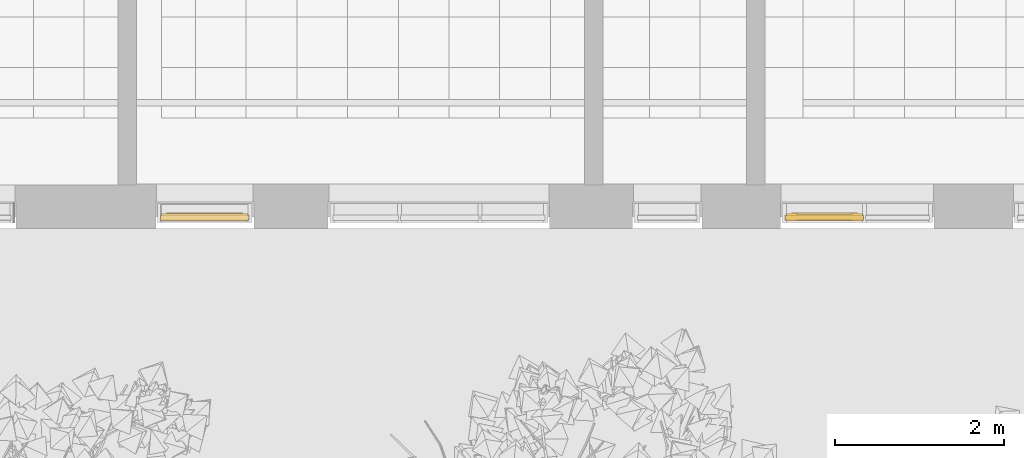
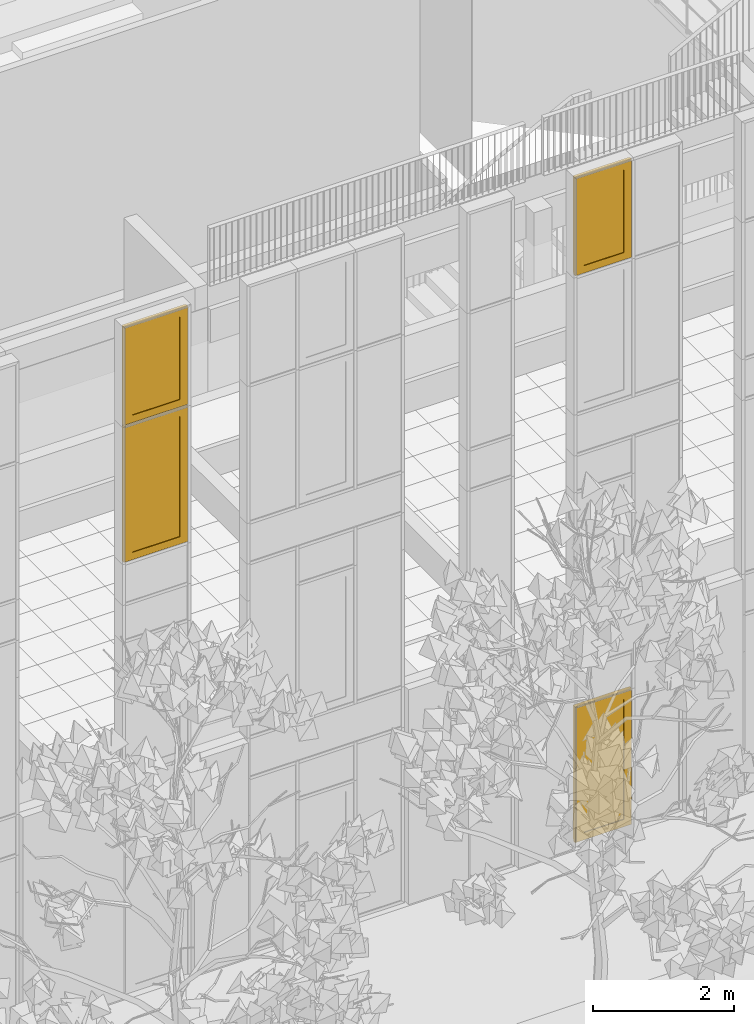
# One storey, part 155 of 246: 4 windows, 2 elements without a shape of their own.
"""IFC2X3 building model written with IfcOpenShell, lengths in millimetres."""

from ifc_helpers import new_model, entity, si_unit, converted_unit, derived_unit, money_unit, direction, frame, origin_with_axes, place, context, subcontext, project, spatial, open_shell, faceted_brep, surface_model, material, material_list, type_object, element, aggregate, save


model = new_model("IFC2X3")

# Units and contexts
model_context = context("Model", 3, precision=0.01, world=origin_with_axes(), true_north=direction((0.0, 1.0)))
body_context = subcontext(model_context, "Body", "Model", "MODEL_VIEW")
ifc_project = project(units=[si_unit("LENGTHUNIT", "METRE", prefix="MILLI"), si_unit("AREAUNIT", "SQUARE_METRE"), si_unit("VOLUMEUNIT", "CUBIC_METRE"), converted_unit("PLANEANGLEUNIT", "DEGREE", entity("IfcPlaneAngleMeasure", 0.0174532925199), si_unit("PLANEANGLEUNIT", "RADIAN"), dimensions=[0, 0, 0, 0, 0, 0, 0]), si_unit("SOLIDANGLEUNIT", "STERADIAN"), money_unit("EUR"), converted_unit("TIMEUNIT", "Year", entity("IfcTimeMeasure", 31556926.0), si_unit("TIMEUNIT", "SECOND"), dimensions=[0, 0, 1, 0, 0, 0, 0]), si_unit("MASSUNIT", "GRAM", prefix="KILO"), si_unit("THERMODYNAMICTEMPERATUREUNIT", "DEGREE_CELSIUS"), si_unit("LUMINOUSINTENSITYUNIT", "LUMEN"), si_unit("ENERGYUNIT", "JOULE", prefix="MEGA"), derived_unit("THERMALCONDUCTANCEUNIT", [(si_unit("POWERUNIT", "WATT"), 1), (si_unit("LENGTHUNIT", "METRE"), -1), (si_unit("THERMODYNAMICTEMPERATUREUNIT", "KELVIN"), -1)]), derived_unit("SPECIFICHEATCAPACITYUNIT", [(si_unit("ENERGYUNIT", "JOULE"), 1), (si_unit("MASSUNIT", "GRAM", prefix="KILO"), -1), (si_unit("THERMODYNAMICTEMPERATUREUNIT", "KELVIN"), -1)]), derived_unit("MASSDENSITYUNIT", [(si_unit("MASSUNIT", "GRAM", prefix="KILO"), 1), (si_unit("VOLUMEUNIT", "CUBIC_METRE"), -1)])], contexts=[model_context])

# Site, building, storey
site_placement = place(None, origin_with_axes())
site = spatial("IfcSite", under=ifc_project, at=site_placement, Name="L.Koidula tn 11b", CompositionType="ELEMENT")
building_placement = place(site_placement, origin_with_axes())
building = spatial("IfcBuilding", under=site, at=building_placement, Name="Rakvere Riigigümnaasium", CompositionType="ELEMENT")
storey_placement = place(building_placement, origin_with_axes())
storey = spatial("IfcBuildingStorey", under=building, at=storey_placement, Name="1.korrus 0,00", CompositionType="ELEMENT", Elevation=0.0)

# Curtain wall, windows
curtain_wall_type = type_object("IfcCurtainWallType", Name="Curtain Wall Type", PredefinedType="NOTDEFINED")
curtain_wall_1_placement = place(storey_placement, frame((54287.5000684, 5111.45334637, -1.61944652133e-05), z_axis=(0.0, 0.0, 1.0), x_axis=(1.0, 0.0, 0.0)))
curtain_wall_1 = element("IfcCurtainWall", 1, at=curtain_wall_1_placement, inside=storey, type_object=curtain_wall_type, Name="KLF-05-2B")
ifc_material_1 = material(Name="Alumiiniumprofiil (RAL 7021)")
ifc_material_2 = material(Name="Klaaspakett 3x ribikardinatega")
ifc_material_list = material_list([ifc_material_1, ifc_material_2])
window_style_1 = type_object("IfcWindowStyle", Name="926 x 2351 x 54", ConstructionType="NOTDEFINED", OperationType="NOTDEFINED", ParameterTakesPrecedence=False, Sizeable=False)
window_1_placement = place(curtain_wall_1_placement, frame((-890.000049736, 0.0, 1200.0), z_axis=(0.0, 0.0, 1.0), x_axis=(-1.0, 0.0, 0.0)))
window_1 = element("IfcWindow", 2, at=window_1_placement, type_object=window_style_1, material=ifc_material_list, Name="KLF-05-A-2", ObjectType="WINDOW", context=body_context, shape_type="SurfaceModel", body=[
    surface_model("IfcShellBasedSurfaceModel", [(437.5, 38.0, -1150.0), (378.5, 38.0, -1091.0), (-403.5, 38.0, -1091.0), (-462.5, 38.0, -1150.0)], [open_shell([[[0, 1, 2, 3]]])]),
    surface_model("IfcShellBasedSurfaceModel", [(-462.5, 38.0, -1150.0), (-403.5, 38.0, -1091.0), (-403.5, 38.0, 1116.0), (-462.5, 38.0, 1175.0)], [open_shell([[[0, 1, 2, 3]]])]),
    surface_model("IfcShellBasedSurfaceModel", [(437.5, 38.0, 1175.0), (-462.5, 38.0, 1175.0), (-403.5, 38.0, 1116.0), (378.5, 38.0, 1116.0)], [open_shell([[[0, 1, 2, 3]]])]),
    surface_model("IfcShellBasedSurfaceModel", [(437.5, 38.0, -1150.0), (437.5, 38.0, 1175.0), (378.5, 38.0, 1116.0), (378.5, 38.0, -1091.0)], [open_shell([[[0, 1, 2, 3]]])]),
    faceted_brep([(437.5, -51.0, -1150.0), (-462.5, -51.0, -1150.0), (-462.5, 38.0, -1150.0), (437.5, 38.0, -1150.0), (378.5, -51.0, -1091.0), (-403.5, -51.0, -1091.0), (-403.5, 38.0, -1091.0), (378.5, 38.0, -1091.0)], [[[0, 1, 2, 3]], [[0, 4, 5, 1]], [[1, 5, 6, 2]], [[3, 2, 6, 7]], [[4, 0, 3, 7]], [[5, 4, 7, 6]]]),
    faceted_brep([(-462.5, -51.0, -1150.0), (-462.5, -51.0, 1175.0), (-462.5, 38.0, 1175.0), (-462.5, 38.0, -1150.0), (-403.5, -51.0, -1091.0), (-403.5, -51.0, 1116.0), (-403.5, 38.0, 1116.0), (-403.5, 38.0, -1091.0)], [[[0, 1, 2, 3]], [[0, 4, 5, 1]], [[1, 5, 6, 2]], [[3, 2, 6, 7]], [[4, 0, 3, 7]], [[5, 4, 7, 6]]]),
    faceted_brep([(437.5, -51.0, 1175.0), (378.5, -51.0, 1116.0), (378.5, 38.0, 1116.0), (437.5, 38.0, 1175.0), (-462.5, -51.0, 1175.0), (-403.5, -51.0, 1116.0), (-403.5, 38.0, 1116.0), (-462.5, 38.0, 1175.0)], [[[0, 1, 2, 3]], [[0, 4, 5, 1]], [[1, 5, 6, 2]], [[3, 2, 6, 7]], [[4, 0, 3, 7]], [[5, 4, 7, 6]]]),
    faceted_brep([(437.5, -51.0, -1150.0), (378.5, -51.0, -1091.0), (378.5, 38.0, -1091.0), (437.5, 38.0, -1150.0), (437.5, -51.0, 1175.0), (378.5, -51.0, 1116.0), (378.5, 38.0, 1116.0), (437.5, 38.0, 1175.0)], [[[0, 1, 2, 3]], [[0, 4, 5, 1]], [[1, 5, 6, 2]], [[3, 2, 6, 7]], [[4, 0, 3, 7]], [[5, 4, 7, 6]]]),
    faceted_brep([(450.5, -27.0, -1163.0), (-475.5, -27.0, -1163.0), (-475.5, 27.0, -1163.0), (450.5, 27.0, -1163.0), (437.5, -27.0, -1150.0), (-462.5, -27.0, -1150.0), (-462.5, 27.0, -1150.0), (437.5, 27.0, -1150.0)], [[[0, 1, 2, 3]], [[0, 4, 5, 1]], [[1, 5, 6, 2]], [[3, 2, 6, 7]], [[4, 0, 3, 7]], [[5, 4, 7, 6]]]),
    faceted_brep([(-475.5, -27.0, -1163.0), (-475.5, -27.0, 1188.0), (-475.5, 27.0, 1188.0), (-475.5, 27.0, -1163.0), (-462.5, -27.0, -1150.0), (-462.5, -27.0, 1175.0), (-462.5, 27.0, 1175.0), (-462.5, 27.0, -1150.0)], [[[0, 1, 2, 3]], [[0, 4, 5, 1]], [[1, 5, 6, 2]], [[3, 2, 6, 7]], [[4, 0, 3, 7]], [[5, 4, 7, 6]]]),
    faceted_brep([(-475.5, -27.0, 1188.0), (450.5, -27.0, 1188.0), (450.5, 27.0, 1188.0), (-475.5, 27.0, 1188.0), (-462.5, -27.0, 1175.0), (437.5, -27.0, 1175.0), (437.5, 27.0, 1175.0), (-462.5, 27.0, 1175.0)], [[[0, 1, 2, 3]], [[0, 4, 5, 1]], [[1, 5, 6, 2]], [[3, 2, 6, 7]], [[4, 0, 3, 7]], [[5, 4, 7, 6]]]),
    faceted_brep([(450.5, -27.0, 1188.0), (450.5, -27.0, -1163.0), (450.5, 27.0, -1163.0), (450.5, 27.0, 1188.0), (437.5, -27.0, 1175.0), (437.5, -27.0, -1150.0), (437.5, 27.0, -1150.0), (437.5, 27.0, 1175.0)], [[[0, 1, 2, 3]], [[0, 4, 5, 1]], [[1, 5, 6, 2]], [[3, 2, 6, 7]], [[4, 0, 3, 7]], [[5, 4, 7, 6]]]),
    faceted_brep([(315.5, 38.0, -1028.0), (315.5, -62.0, -1028.0), (315.5, -62.0, 1053.0), (315.5, 38.0, 1053.0), (378.5, 38.0, -1091.0), (378.5, -62.0, -1091.0), (378.5, -62.0, 1116.0), (378.5, 38.0, 1116.0)], [[[0, 1, 2, 3]], [[4, 5, 1, 0]], [[1, 5, 6, 2]], [[3, 2, 6, 7]], [[0, 3, 7, 4]], [[7, 6, 5, 4]]]),
    faceted_brep([(-403.5, 38.0, -1091.0), (-403.5, -62.0, -1091.0), (-403.5, -62.0, 1116.0), (-403.5, 38.0, 1116.0), (-340.5, 38.0, -1028.0), (-340.5, -62.0, -1028.0), (-340.5, -62.0, 1053.0), (-340.5, 38.0, 1053.0)], [[[0, 1, 2, 3]], [[4, 5, 1, 0]], [[1, 5, 6, 2]], [[3, 2, 6, 7]], [[0, 3, 7, 4]], [[7, 6, 5, 4]]]),
    faceted_brep([(-403.5, 38.0, -1091.0), (-403.5, -62.0, -1091.0), (-340.5, -62.0, -1028.0), (-340.5, 38.0, -1028.0), (378.5, 38.0, -1091.0), (378.5, -62.0, -1091.0), (315.5, -62.0, -1028.0), (315.5, 38.0, -1028.0)], [[[0, 1, 2, 3]], [[4, 5, 1, 0]], [[1, 5, 6, 2]], [[3, 2, 6, 7]], [[0, 3, 7, 4]], [[7, 6, 5, 4]]]),
    faceted_brep([(378.5, 38.0, 1116.0), (378.5, -62.0, 1116.0), (315.5, -62.0, 1053.0), (315.5, 38.0, 1053.0), (-403.5, 38.0, 1116.0), (-403.5, -62.0, 1116.0), (-340.5, -62.0, 1053.0), (-340.5, 38.0, 1053.0)], [[[0, 1, 2, 3]], [[4, 5, 1, 0]], [[1, 5, 6, 2]], [[3, 2, 6, 7]], [[0, 3, 7, 4]], [[7, 6, 5, 4]]]),
    faceted_brep([(315.5, 27.0, -1028.0), (315.5, -38.0, -1028.0), (-340.5, -38.0, -1028.0), (-340.5, 27.0, -1028.0), (315.5, 27.0, 1053.0), (315.5, -38.0, 1053.0), (-340.5, -38.0, 1053.0), (-340.5, 27.0, 1053.0)], [[[0, 1, 2, 3]], [[4, 5, 1, 0]], [[1, 5, 6, 2]], [[3, 2, 6, 7]], [[0, 3, 7, 4]], [[7, 6, 5, 4]]]),
])
window_style_2 = type_object("IfcWindowStyle", Name="926 x 1701 x 54", ConstructionType="NOTDEFINED", OperationType="NOTDEFINED", ParameterTakesPrecedence=False, Sizeable=False)
window_2_placement = place(curtain_wall_1_placement, frame((-890.000049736, 0.0, 10714.999916), z_axis=(0.0, 0.0, 1.0), x_axis=(-1.0, 0.0, 0.0)))
window_2 = element("IfcWindow", 3, at=window_2_placement, type_object=window_style_2, material=ifc_material_list, Name="KLF-05-A-4", ObjectType="WINDOW", context=body_context, shape_type="SurfaceModel", body=[
    surface_model("IfcShellBasedSurfaceModel", [(437.500012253, 38.0, -849.999922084), (378.500012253, 38.0, -790.999922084), (-403.500001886, 38.0, -790.999922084), (-462.500001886, 38.0, -849.999922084)], [open_shell([[[0, 1, 2, 3]]])]),
    surface_model("IfcShellBasedSurfaceModel", [(-462.500001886, 38.0, -849.999922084), (-403.500001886, 38.0, -790.999922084), (-403.500001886, 38.0, 765.99992821), (-462.500001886, 38.0, 824.99992821)], [open_shell([[[0, 1, 2, 3]]])]),
    surface_model("IfcShellBasedSurfaceModel", [(437.500012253, 38.0, 824.99992821), (-462.500001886, 38.0, 824.99992821), (-403.500001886, 38.0, 765.99992821), (378.500012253, 38.0, 765.99992821)], [open_shell([[[0, 1, 2, 3]]])]),
    surface_model("IfcShellBasedSurfaceModel", [(437.500012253, 38.0, -849.999922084), (437.500012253, 38.0, 824.99992821), (378.500012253, 38.0, 765.99992821), (378.500012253, 38.0, -790.999922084)], [open_shell([[[0, 1, 2, 3]]])]),
    faceted_brep([(437.500012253, -51.0, -849.999922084), (-462.500001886, -51.0, -849.999922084), (-462.500001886, 38.0, -849.999922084), (437.500012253, 38.0, -849.999922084), (378.500012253, -51.0, -790.999922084), (-403.500001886, -51.0, -790.999922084), (-403.500001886, 38.0, -790.999922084), (378.500012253, 38.0, -790.999922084)], [[[0, 1, 2, 3]], [[0, 4, 5, 1]], [[1, 5, 6, 2]], [[3, 2, 6, 7]], [[4, 0, 3, 7]], [[5, 4, 7, 6]]]),
    faceted_brep([(-462.500001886, -51.0, -849.999922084), (-462.500001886, -51.0, 824.99992821), (-462.500001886, 38.0, 824.99992821), (-462.500001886, 38.0, -849.999922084), (-403.500001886, -51.0, -790.999922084), (-403.500001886, -51.0, 765.99992821), (-403.500001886, 38.0, 765.99992821), (-403.500001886, 38.0, -790.999922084)], [[[0, 1, 2, 3]], [[0, 4, 5, 1]], [[1, 5, 6, 2]], [[3, 2, 6, 7]], [[4, 0, 3, 7]], [[5, 4, 7, 6]]]),
    faceted_brep([(437.500012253, -51.0, 824.99992821), (378.500012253, -51.0, 765.99992821), (378.500012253, 38.0, 765.99992821), (437.500012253, 38.0, 824.99992821), (-462.500001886, -51.0, 824.99992821), (-403.500001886, -51.0, 765.99992821), (-403.500001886, 38.0, 765.99992821), (-462.500001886, 38.0, 824.99992821)], [[[0, 1, 2, 3]], [[0, 4, 5, 1]], [[1, 5, 6, 2]], [[3, 2, 6, 7]], [[4, 0, 3, 7]], [[5, 4, 7, 6]]]),
    faceted_brep([(437.500012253, -51.0, -849.999922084), (378.500012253, -51.0, -790.999922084), (378.500012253, 38.0, -790.999922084), (437.500012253, 38.0, -849.999922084), (437.500012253, -51.0, 824.99992821), (378.500012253, -51.0, 765.99992821), (378.500012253, 38.0, 765.99992821), (437.500012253, 38.0, 824.99992821)], [[[0, 1, 2, 3]], [[0, 4, 5, 1]], [[1, 5, 6, 2]], [[3, 2, 6, 7]], [[4, 0, 3, 7]], [[5, 4, 7, 6]]]),
    faceted_brep([(450.499997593, -27.0, -862.999907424), (-475.499987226, -27.0, -862.999907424), (-475.499987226, 27.0, -862.999907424), (450.499997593, 27.0, -862.999907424), (437.500012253, -27.0, -849.999922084), (-462.500001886, -27.0, -849.999922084), (-462.500001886, 27.0, -849.999922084), (437.500012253, 27.0, -849.999922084)], [[[0, 1, 2, 3]], [[0, 4, 5, 1]], [[1, 5, 6, 2]], [[3, 2, 6, 7]], [[4, 0, 3, 7]], [[5, 4, 7, 6]]]),
    faceted_brep([(-475.499987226, -27.0, -862.999907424), (-475.499987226, -27.0, 837.999913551), (-475.499987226, 27.0, 837.999913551), (-475.499987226, 27.0, -862.999907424), (-462.500001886, -27.0, -849.999922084), (-462.500001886, -27.0, 824.99992821), (-462.500001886, 27.0, 824.99992821), (-462.500001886, 27.0, -849.999922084)], [[[0, 1, 2, 3]], [[0, 4, 5, 1]], [[1, 5, 6, 2]], [[3, 2, 6, 7]], [[4, 0, 3, 7]], [[5, 4, 7, 6]]]),
    faceted_brep([(-475.499987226, -27.0, 837.999913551), (450.499997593, -27.0, 837.999913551), (450.499997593, 27.0, 837.999913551), (-475.499987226, 27.0, 837.999913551), (-462.500001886, -27.0, 824.99992821), (437.500012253, -27.0, 824.99992821), (437.500012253, 27.0, 824.99992821), (-462.500001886, 27.0, 824.99992821)], [[[0, 1, 2, 3]], [[0, 4, 5, 1]], [[1, 5, 6, 2]], [[3, 2, 6, 7]], [[4, 0, 3, 7]], [[5, 4, 7, 6]]]),
    faceted_brep([(450.499997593, -27.0, 837.999913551), (450.499997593, -27.0, -862.999907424), (450.499997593, 27.0, -862.999907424), (450.499997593, 27.0, 837.999913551), (437.500012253, -27.0, 824.99992821), (437.500012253, -27.0, -849.999922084), (437.500012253, 27.0, -849.999922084), (437.500012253, 27.0, 824.99992821)], [[[0, 1, 2, 3]], [[0, 4, 5, 1]], [[1, 5, 6, 2]], [[3, 2, 6, 7]], [[4, 0, 3, 7]], [[5, 4, 7, 6]]]),
    faceted_brep([(315.500012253, 38.0, -727.999922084), (315.500012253, -62.0, -727.999922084), (315.500012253, -62.0, 702.99992821), (315.500012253, 38.0, 702.99992821), (378.500012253, 38.0, -790.999922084), (378.500012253, -62.0, -790.999922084), (378.500012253, -62.0, 765.99992821), (378.500012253, 38.0, 765.99992821)], [[[0, 1, 2, 3]], [[4, 5, 1, 0]], [[1, 5, 6, 2]], [[3, 2, 6, 7]], [[0, 3, 7, 4]], [[7, 6, 5, 4]]]),
    faceted_brep([(-403.500001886, 38.0, -790.999922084), (-403.500001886, -62.0, -790.999922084), (-403.500001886, -62.0, 765.99992821), (-403.500001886, 38.0, 765.99992821), (-340.500001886, 38.0, -727.999922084), (-340.500001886, -62.0, -727.999922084), (-340.500001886, -62.0, 702.99992821), (-340.500001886, 38.0, 702.99992821)], [[[0, 1, 2, 3]], [[4, 5, 1, 0]], [[1, 5, 6, 2]], [[3, 2, 6, 7]], [[0, 3, 7, 4]], [[7, 6, 5, 4]]]),
    faceted_brep([(-403.500001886, 38.0, -790.999922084), (-403.500001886, -62.0, -790.999922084), (-340.500001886, -62.0, -727.999922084), (-340.500001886, 38.0, -727.999922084), (378.500012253, 38.0, -790.999922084), (378.500012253, -62.0, -790.999922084), (315.500012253, -62.0, -727.999922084), (315.500012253, 38.0, -727.999922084)], [[[0, 1, 2, 3]], [[4, 5, 1, 0]], [[1, 5, 6, 2]], [[3, 2, 6, 7]], [[0, 3, 7, 4]], [[7, 6, 5, 4]]]),
    faceted_brep([(378.500012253, 38.0, 765.99992821), (378.500012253, -62.0, 765.99992821), (315.500012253, -62.0, 702.99992821), (315.500012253, 38.0, 702.99992821), (-403.500001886, 38.0, 765.99992821), (-403.500001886, -62.0, 765.99992821), (-340.500001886, -62.0, 702.99992821), (-340.500001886, 38.0, 702.99992821)], [[[0, 1, 2, 3]], [[4, 5, 1, 0]], [[1, 5, 6, 2]], [[3, 2, 6, 7]], [[0, 3, 7, 4]], [[7, 6, 5, 4]]]),
    faceted_brep([(315.500012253, 27.0, -727.999922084), (315.500012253, -38.0, -727.999922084), (-340.500001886, -38.0, -727.999922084), (-340.500001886, 27.0, -727.999922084), (315.500012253, 27.0, 702.99992821), (315.500012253, -38.0, 702.99992821), (-340.500001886, -38.0, 702.99992821), (-340.500001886, 27.0, 702.99992821)], [[[0, 1, 2, 3]], [[4, 5, 1, 0]], [[1, 5, 6, 2]], [[3, 2, 6, 7]], [[0, 3, 7, 4]], [[7, 6, 5, 4]]]),
])
aggregate(curtain_wall_1, [window_1, window_2])

curtain_wall_2_placement = place(storey_placement, frame((45905.0206042, 5111.45334637, -8.09717236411e-06), z_axis=(0.0, 0.0, 1.0), x_axis=(1.0, 0.0, 0.0)))
curtain_wall_2 = element("IfcCurtainWall", 4, at=curtain_wall_2_placement, inside=storey, type_object=curtain_wall_type, Name="KLF-05-1B")
window_style_3 = type_object("IfcWindowStyle", Name="1046 x 2351 x 54", ConstructionType="NOTDEFINED", OperationType="NOTDEFINED", ParameterTakesPrecedence=False, Sizeable=False)
window_3_placement = place(curtain_wall_2_placement, frame((69.7960938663, 0.0, 8415.0), z_axis=(0.0, 0.0, 1.0), x_axis=(-1.0, 0.0, 0.0)))
window_3 = element("IfcWindow", 5, at=window_3_placement, type_object=window_style_3, material=ifc_material_list, Name="KLF-05-A-1", ObjectType="WINDOW", context=body_context, shape_type="SurfaceModel", body=[
    surface_model("IfcShellBasedSurfaceModel", [(405.306052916, 38.0, -925.000014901), (346.306052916, 38.0, -866.000014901), (-555.694351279, 38.0, -866.000014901), (-614.694351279, 38.0, -925.000014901)], [open_shell([[[0, 1, 2, 3]]])]),
    surface_model("IfcShellBasedSurfaceModel", [(-614.694351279, 38.0, -925.000014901), (-555.694351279, 38.0, -866.000014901), (-555.694351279, 38.0, 1341.0000149), (-614.694351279, 38.0, 1400.0000149)], [open_shell([[[0, 1, 2, 3]]])]),
    surface_model("IfcShellBasedSurfaceModel", [(405.306052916, 38.0, 1400.0000149), (-614.694351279, 38.0, 1400.0000149), (-555.694351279, 38.0, 1341.0000149), (346.306052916, 38.0, 1341.0000149)], [open_shell([[[0, 1, 2, 3]]])]),
    surface_model("IfcShellBasedSurfaceModel", [(405.306052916, 38.0, -925.000014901), (405.306052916, 38.0, 1400.0000149), (346.306052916, 38.0, 1341.0000149), (346.306052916, 38.0, -866.000014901)], [open_shell([[[0, 1, 2, 3]]])]),
    faceted_brep([(405.306052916, -51.0, -925.000014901), (-614.694351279, -51.0, -925.000014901), (-614.694351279, 38.0, -925.000014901), (405.306052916, 38.0, -925.000014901), (346.306052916, -51.0, -866.000014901), (-555.694351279, -51.0, -866.000014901), (-555.694351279, 38.0, -866.000014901), (346.306052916, 38.0, -866.000014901)], [[[0, 1, 2, 3]], [[0, 4, 5, 1]], [[1, 5, 6, 2]], [[3, 2, 6, 7]], [[4, 0, 3, 7]], [[5, 4, 7, 6]]]),
    faceted_brep([(-614.694351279, -51.0, -925.000014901), (-614.694351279, -51.0, 1400.0000149), (-614.694351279, 38.0, 1400.0000149), (-614.694351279, 38.0, -925.000014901), (-555.694351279, -51.0, -866.000014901), (-555.694351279, -51.0, 1341.0000149), (-555.694351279, 38.0, 1341.0000149), (-555.694351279, 38.0, -866.000014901)], [[[0, 1, 2, 3]], [[0, 4, 5, 1]], [[1, 5, 6, 2]], [[3, 2, 6, 7]], [[4, 0, 3, 7]], [[5, 4, 7, 6]]]),
    faceted_brep([(405.306052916, -51.0, 1400.0000149), (346.306052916, -51.0, 1341.0000149), (346.306052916, 38.0, 1341.0000149), (405.306052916, 38.0, 1400.0000149), (-614.694351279, -51.0, 1400.0000149), (-555.694351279, -51.0, 1341.0000149), (-555.694351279, 38.0, 1341.0000149), (-614.694351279, 38.0, 1400.0000149)], [[[0, 1, 2, 3]], [[0, 4, 5, 1]], [[1, 5, 6, 2]], [[3, 2, 6, 7]], [[4, 0, 3, 7]], [[5, 4, 7, 6]]]),
    faceted_brep([(405.306052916, -51.0, -925.000014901), (346.306052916, -51.0, -866.000014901), (346.306052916, 38.0, -866.000014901), (405.306052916, 38.0, -925.000014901), (405.306052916, -51.0, 1400.0000149), (346.306052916, -51.0, 1341.0000149), (346.306052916, 38.0, 1341.0000149), (405.306052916, 38.0, 1400.0000149)], [[[0, 1, 2, 3]], [[0, 4, 5, 1]], [[1, 5, 6, 2]], [[3, 2, 6, 7]], [[4, 0, 3, 7]], [[5, 4, 7, 6]]]),
    faceted_brep([(418.306074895, -27.0, -938.00000149), (-627.694373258, -27.0, -938.00000149), (-627.694373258, 27.0, -938.00000149), (418.306074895, 27.0, -938.00000149), (405.306052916, -27.0, -925.000014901), (-614.694351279, -27.0, -925.000014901), (-614.694351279, 27.0, -925.000014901), (405.306052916, 27.0, -925.000014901)], [[[0, 1, 2, 3]], [[0, 4, 5, 1]], [[1, 5, 6, 2]], [[3, 2, 6, 7]], [[4, 0, 3, 7]], [[5, 4, 7, 6]]]),
    faceted_brep([(-627.694373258, -27.0, -938.00000149), (-627.694373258, -27.0, 1413.00000149), (-627.694373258, 27.0, 1413.00000149), (-627.694373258, 27.0, -938.00000149), (-614.694351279, -27.0, -925.000014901), (-614.694351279, -27.0, 1400.0000149), (-614.694351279, 27.0, 1400.0000149), (-614.694351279, 27.0, -925.000014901)], [[[0, 1, 2, 3]], [[0, 4, 5, 1]], [[1, 5, 6, 2]], [[3, 2, 6, 7]], [[4, 0, 3, 7]], [[5, 4, 7, 6]]]),
    faceted_brep([(-627.694373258, -27.0, 1413.00000149), (418.306074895, -27.0, 1413.00000149), (418.306074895, 27.0, 1413.00000149), (-627.694373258, 27.0, 1413.00000149), (-614.694351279, -27.0, 1400.0000149), (405.306052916, -27.0, 1400.0000149), (405.306052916, 27.0, 1400.0000149), (-614.694351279, 27.0, 1400.0000149)], [[[0, 1, 2, 3]], [[0, 4, 5, 1]], [[1, 5, 6, 2]], [[3, 2, 6, 7]], [[4, 0, 3, 7]], [[5, 4, 7, 6]]]),
    faceted_brep([(418.306074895, -27.0, 1413.00000149), (418.306074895, -27.0, -938.00000149), (418.306074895, 27.0, -938.00000149), (418.306074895, 27.0, 1413.00000149), (405.306052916, -27.0, 1400.0000149), (405.306052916, -27.0, -925.000014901), (405.306052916, 27.0, -925.000014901), (405.306052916, 27.0, 1400.0000149)], [[[0, 1, 2, 3]], [[0, 4, 5, 1]], [[1, 5, 6, 2]], [[3, 2, 6, 7]], [[4, 0, 3, 7]], [[5, 4, 7, 6]]]),
    faceted_brep([(283.306052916, 38.0, -803.000014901), (283.306052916, -62.0, -803.000014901), (283.306052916, -62.0, 1278.0000149), (283.306052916, 38.0, 1278.0000149), (346.306052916, 38.0, -866.000014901), (346.306052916, -62.0, -866.000014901), (346.306052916, -62.0, 1341.0000149), (346.306052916, 38.0, 1341.0000149)], [[[0, 1, 2, 3]], [[4, 5, 1, 0]], [[1, 5, 6, 2]], [[3, 2, 6, 7]], [[0, 3, 7, 4]], [[7, 6, 5, 4]]]),
    faceted_brep([(-555.694351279, 38.0, -866.000014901), (-555.694351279, -62.0, -866.000014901), (-555.694351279, -62.0, 1341.0000149), (-555.694351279, 38.0, 1341.0000149), (-492.694351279, 38.0, -803.000014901), (-492.694351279, -62.0, -803.000014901), (-492.694351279, -62.0, 1278.0000149), (-492.694351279, 38.0, 1278.0000149)], [[[0, 1, 2, 3]], [[4, 5, 1, 0]], [[1, 5, 6, 2]], [[3, 2, 6, 7]], [[0, 3, 7, 4]], [[7, 6, 5, 4]]]),
    faceted_brep([(-555.694351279, 38.0, -866.000014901), (-555.694351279, -62.0, -866.000014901), (-492.694351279, -62.0, -803.000014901), (-492.694351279, 38.0, -803.000014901), (346.306052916, 38.0, -866.000014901), (346.306052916, -62.0, -866.000014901), (283.306052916, -62.0, -803.000014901), (283.306052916, 38.0, -803.000014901)], [[[0, 1, 2, 3]], [[4, 5, 1, 0]], [[1, 5, 6, 2]], [[3, 2, 6, 7]], [[0, 3, 7, 4]], [[7, 6, 5, 4]]]),
    faceted_brep([(346.306052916, 38.0, 1341.0000149), (346.306052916, -62.0, 1341.0000149), (283.306052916, -62.0, 1278.0000149), (283.306052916, 38.0, 1278.0000149), (-555.694351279, 38.0, 1341.0000149), (-555.694351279, -62.0, 1341.0000149), (-492.694351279, -62.0, 1278.0000149), (-492.694351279, 38.0, 1278.0000149)], [[[0, 1, 2, 3]], [[4, 5, 1, 0]], [[1, 5, 6, 2]], [[3, 2, 6, 7]], [[0, 3, 7, 4]], [[7, 6, 5, 4]]]),
    faceted_brep([(283.306052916, 27.0, -803.000014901), (283.306052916, 11.0, -803.000014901), (-492.694351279, 11.0, -803.000014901), (-492.694351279, 27.0, -803.000014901), (283.306052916, 27.0, 1278.0000149), (283.306052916, 11.0, 1278.0000149), (-492.694351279, 11.0, 1278.0000149), (-492.694351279, 27.0, 1278.0000149)], [[[0, 1, 2, 3]], [[4, 5, 1, 0]], [[1, 5, 6, 2]], [[3, 2, 6, 7]], [[0, 3, 7, 4]], [[7, 6, 5, 4]]]),
])
window_style_4 = type_object("IfcWindowStyle", Name="1046 x 1701 x 54", ConstructionType="NOTDEFINED", OperationType="NOTDEFINED", ParameterTakesPrecedence=False, Sizeable=False)
window_4_placement = place(curtain_wall_2_placement, frame((174.490250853, 0.0, 10715.0000206), z_axis=(0.0, 0.0, 1.0), x_axis=(-1.0, 0.0, 0.0)))
window_4 = element("IfcWindow", 6, at=window_4_placement, type_object=window_style_4, material=ifc_material_list, Name="KLF-05-A-3", ObjectType="WINDOW", context=body_context, shape_type="SurfaceModel", body=[
    surface_model("IfcShellBasedSurfaceModel", [(510.000221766, 38.0, -850.000023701), (451.000221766, 38.0, -791.000023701), (-451.000260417, 38.0, -791.000023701), (-510.000260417, 38.0, -850.000023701)], [open_shell([[[0, 1, 2, 3]]])]),
    surface_model("IfcShellBasedSurfaceModel", [(-510.000260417, 38.0, -850.000023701), (-451.000260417, 38.0, -791.000023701), (-451.000260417, 38.0, 766.000026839), (-510.000260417, 38.0, 825.000026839)], [open_shell([[[0, 1, 2, 3]]])]),
    surface_model("IfcShellBasedSurfaceModel", [(510.000221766, 38.0, 825.000026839), (-510.000260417, 38.0, 825.000026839), (-451.000260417, 38.0, 766.000026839), (451.000221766, 38.0, 766.000026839)], [open_shell([[[0, 1, 2, 3]]])]),
    surface_model("IfcShellBasedSurfaceModel", [(510.000221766, 38.0, -850.000023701), (510.000221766, 38.0, 825.000026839), (451.000221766, 38.0, 766.000026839), (451.000221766, 38.0, -791.000023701)], [open_shell([[[0, 1, 2, 3]]])]),
    faceted_brep([(510.000221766, -51.0, -850.000023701), (-510.000260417, -51.0, -850.000023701), (-510.000260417, 38.0, -850.000023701), (510.000221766, 38.0, -850.000023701), (451.000221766, -51.0, -791.000023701), (-451.000260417, -51.0, -791.000023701), (-451.000260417, 38.0, -791.000023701), (451.000221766, 38.0, -791.000023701)], [[[0, 1, 2, 3]], [[0, 4, 5, 1]], [[1, 5, 6, 2]], [[3, 2, 6, 7]], [[4, 0, 3, 7]], [[5, 4, 7, 6]]]),
    faceted_brep([(-510.000260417, -51.0, -850.000023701), (-510.000260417, -51.0, 825.000026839), (-510.000260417, 38.0, 825.000026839), (-510.000260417, 38.0, -850.000023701), (-451.000260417, -51.0, -791.000023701), (-451.000260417, -51.0, 766.000026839), (-451.000260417, 38.0, 766.000026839), (-451.000260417, 38.0, -791.000023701)], [[[0, 1, 2, 3]], [[0, 4, 5, 1]], [[1, 5, 6, 2]], [[3, 2, 6, 7]], [[4, 0, 3, 7]], [[5, 4, 7, 6]]]),
    faceted_brep([(510.000221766, -51.0, 825.000026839), (451.000221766, -51.0, 766.000026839), (451.000221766, 38.0, 766.000026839), (510.000221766, 38.0, 825.000026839), (-510.000260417, -51.0, 825.000026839), (-451.000260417, -51.0, 766.000026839), (-451.000260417, 38.0, 766.000026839), (-510.000260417, 38.0, 825.000026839)], [[[0, 1, 2, 3]], [[0, 4, 5, 1]], [[1, 5, 6, 2]], [[3, 2, 6, 7]], [[4, 0, 3, 7]], [[5, 4, 7, 6]]]),
    faceted_brep([(510.000221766, -51.0, -850.000023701), (451.000221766, -51.0, -791.000023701), (451.000221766, 38.0, -791.000023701), (510.000221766, 38.0, -850.000023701), (510.000221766, -51.0, 825.000026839), (451.000221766, -51.0, 766.000026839), (451.000221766, 38.0, 766.000026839), (510.000221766, 38.0, 825.000026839)], [[[0, 1, 2, 3]], [[0, 4, 5, 1]], [[1, 5, 6, 2]], [[3, 2, 6, 7]], [[4, 0, 3, 7]], [[5, 4, 7, 6]]]),
    faceted_brep([(523.00020866, -27.0, -863.000010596), (-523.000247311, -27.0, -863.000010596), (-523.000247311, 27.0, -863.000010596), (523.00020866, 27.0, -863.000010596), (510.000221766, -27.0, -850.000023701), (-510.000260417, -27.0, -850.000023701), (-510.000260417, 27.0, -850.000023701), (510.000221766, 27.0, -850.000023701)], [[[0, 1, 2, 3]], [[0, 4, 5, 1]], [[1, 5, 6, 2]], [[3, 2, 6, 7]], [[4, 0, 3, 7]], [[5, 4, 7, 6]]]),
    faceted_brep([(-523.000247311, -27.0, -863.000010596), (-523.000247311, -27.0, 838.000013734), (-523.000247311, 27.0, 838.000013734), (-523.000247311, 27.0, -863.000010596), (-510.000260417, -27.0, -850.000023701), (-510.000260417, -27.0, 825.000026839), (-510.000260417, 27.0, 825.000026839), (-510.000260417, 27.0, -850.000023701)], [[[0, 1, 2, 3]], [[0, 4, 5, 1]], [[1, 5, 6, 2]], [[3, 2, 6, 7]], [[4, 0, 3, 7]], [[5, 4, 7, 6]]]),
    faceted_brep([(-523.000247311, -27.0, 838.000013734), (523.00020866, -27.0, 838.000013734), (523.00020866, 27.0, 838.000013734), (-523.000247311, 27.0, 838.000013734), (-510.000260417, -27.0, 825.000026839), (510.000221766, -27.0, 825.000026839), (510.000221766, 27.0, 825.000026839), (-510.000260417, 27.0, 825.000026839)], [[[0, 1, 2, 3]], [[0, 4, 5, 1]], [[1, 5, 6, 2]], [[3, 2, 6, 7]], [[4, 0, 3, 7]], [[5, 4, 7, 6]]]),
    faceted_brep([(523.00020866, -27.0, 838.000013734), (523.00020866, -27.0, -863.000010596), (523.00020866, 27.0, -863.000010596), (523.00020866, 27.0, 838.000013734), (510.000221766, -27.0, 825.000026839), (510.000221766, -27.0, -850.000023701), (510.000221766, 27.0, -850.000023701), (510.000221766, 27.0, 825.000026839)], [[[0, 1, 2, 3]], [[0, 4, 5, 1]], [[1, 5, 6, 2]], [[3, 2, 6, 7]], [[4, 0, 3, 7]], [[5, 4, 7, 6]]]),
    faceted_brep([(388.000221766, 38.0, -728.000023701), (388.000221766, -62.0, -728.000023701), (388.000221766, -62.0, 703.000026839), (388.000221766, 38.0, 703.000026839), (451.000221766, 38.0, -791.000023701), (451.000221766, -62.0, -791.000023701), (451.000221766, -62.0, 766.000026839), (451.000221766, 38.0, 766.000026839)], [[[0, 1, 2, 3]], [[4, 5, 1, 0]], [[1, 5, 6, 2]], [[3, 2, 6, 7]], [[0, 3, 7, 4]], [[7, 6, 5, 4]]]),
    faceted_brep([(-451.000260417, 38.0, -791.000023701), (-451.000260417, -62.0, -791.000023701), (-451.000260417, -62.0, 766.000026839), (-451.000260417, 38.0, 766.000026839), (-388.000260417, 38.0, -728.000023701), (-388.000260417, -62.0, -728.000023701), (-388.000260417, -62.0, 703.000026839), (-388.000260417, 38.0, 703.000026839)], [[[0, 1, 2, 3]], [[4, 5, 1, 0]], [[1, 5, 6, 2]], [[3, 2, 6, 7]], [[0, 3, 7, 4]], [[7, 6, 5, 4]]]),
    faceted_brep([(-451.000260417, 38.0, -791.000023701), (-451.000260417, -62.0, -791.000023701), (-388.000260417, -62.0, -728.000023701), (-388.000260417, 38.0, -728.000023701), (451.000221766, 38.0, -791.000023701), (451.000221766, -62.0, -791.000023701), (388.000221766, -62.0, -728.000023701), (388.000221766, 38.0, -728.000023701)], [[[0, 1, 2, 3]], [[4, 5, 1, 0]], [[1, 5, 6, 2]], [[3, 2, 6, 7]], [[0, 3, 7, 4]], [[7, 6, 5, 4]]]),
    faceted_brep([(451.000221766, 38.0, 766.000026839), (451.000221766, -62.0, 766.000026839), (388.000221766, -62.0, 703.000026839), (388.000221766, 38.0, 703.000026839), (-451.000260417, 38.0, 766.000026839), (-451.000260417, -62.0, 766.000026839), (-388.000260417, -62.0, 703.000026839), (-388.000260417, 38.0, 703.000026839)], [[[0, 1, 2, 3]], [[4, 5, 1, 0]], [[1, 5, 6, 2]], [[3, 2, 6, 7]], [[0, 3, 7, 4]], [[7, 6, 5, 4]]]),
    faceted_brep([(388.000221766, 27.0, -728.000023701), (388.000221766, 11.0, -728.000023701), (-388.000260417, 11.0, -728.000023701), (-388.000260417, 27.0, -728.000023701), (388.000221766, 27.0, 703.000026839), (388.000221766, 11.0, 703.000026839), (-388.000260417, 11.0, 703.000026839), (-388.000260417, 27.0, 703.000026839)], [[[0, 1, 2, 3]], [[4, 5, 1, 0]], [[1, 5, 6, 2]], [[3, 2, 6, 7]], [[0, 3, 7, 4]], [[7, 6, 5, 4]]]),
])
aggregate(curtain_wall_2, [window_3, window_4])

save(model, "model.ifc")
